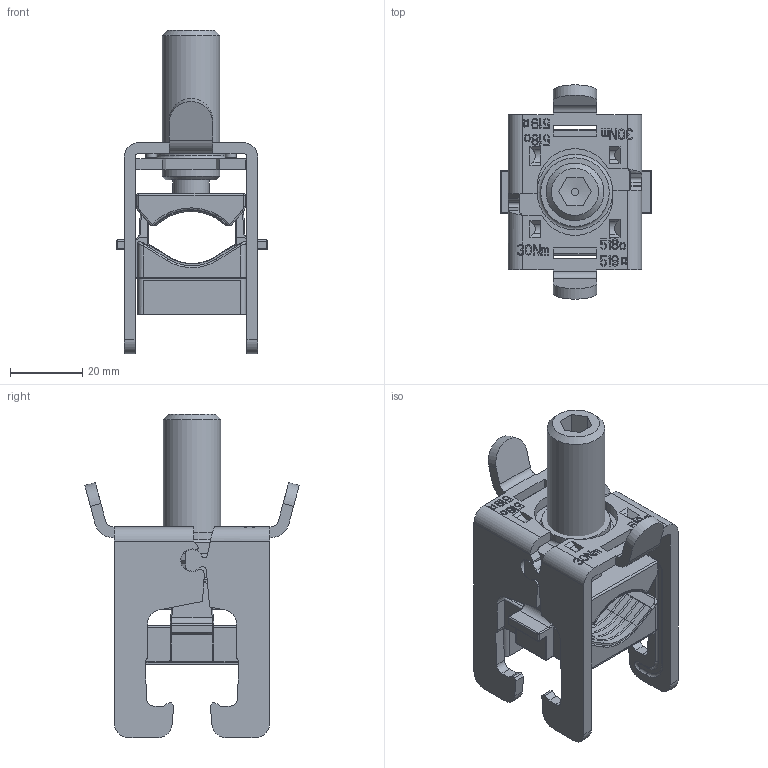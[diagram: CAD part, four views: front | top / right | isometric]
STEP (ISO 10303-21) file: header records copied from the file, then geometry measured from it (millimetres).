
FILE_DESCRIPTION (( 'STEP AP203' ), '1' );
FILE_NAME ('54317.STEP', '2021-08-13T05:24:17', ( '' ), ( '' ), 'SwSTEP 2.0', 'SolidWorks 2017', '' );
FILE_SCHEMA (( 'CONFIG_CONTROL_DESIGN' ));
Length unit declared in the file: millimetre
Products named in the file (2): 54317
Bounding box: 42 x 59.42 x 89.69 mm (x, y, z)
Volume: 39200.9 mm3; surface area: 26145.3 mm2
Topology: 6 solids, 6 shells, 1728 faces, 4796 edges, 3096 vertices
Faces by surface type: plane 1195, cylinder 305, torus 98, bspline 94, cone 22, sphere 14
Full cylindrical faces by diameter (mm): 8.5 x1, 10 x2, 14.5 x1, 16 x1, 19 x1
Entity records: 62508 total; most frequent: CARTESIAN_POINT 20115, ORIENTED_EDGE 9516, DIRECTION 7633, EDGE_CURVE 4758, LINE 3445, VECTOR 3445, VERTEX_POINT 3093, AXIS2_PLACEMENT_3D 2094
